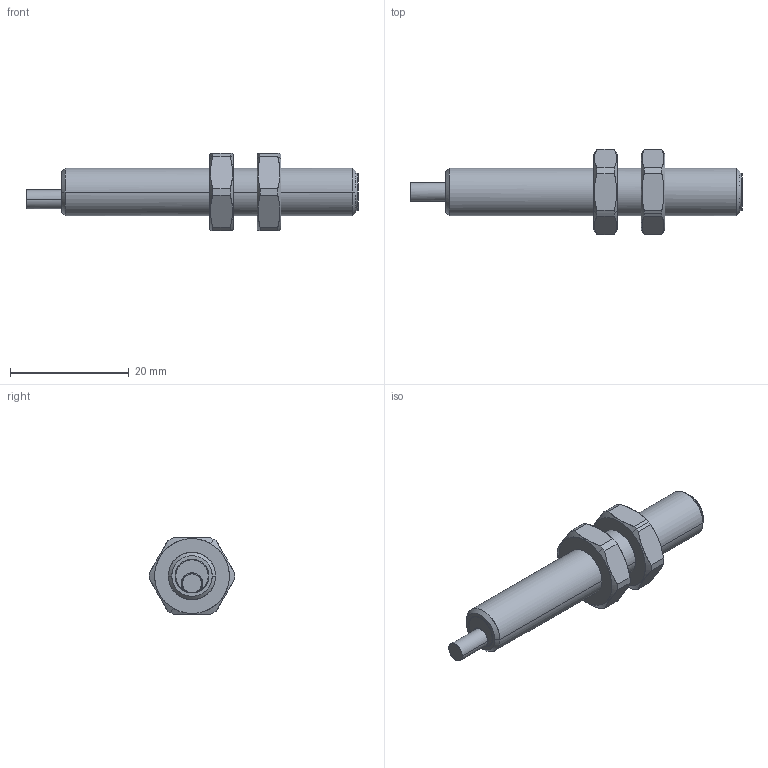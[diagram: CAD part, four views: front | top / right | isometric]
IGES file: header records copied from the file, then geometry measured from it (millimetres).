
Start section: Comment
Global section: file name: IFRM 08xxxA4_L.igs; native system:  By Spatial Corp.; preprocessor: XPlus GENERIC/IGES 3.0; author: Author; organization: Title; date: 20050523.134934; units: millimetre
Bounding box: 55.95 x 14.36 x 13 mm (x, y, z)
Surface area: 2292.2 mm2 (no closed solid volume)
Topology: 0 solids, 0 shells, 80 faces, 384 edges, 384 vertices
Faces by surface type: bspline 80
